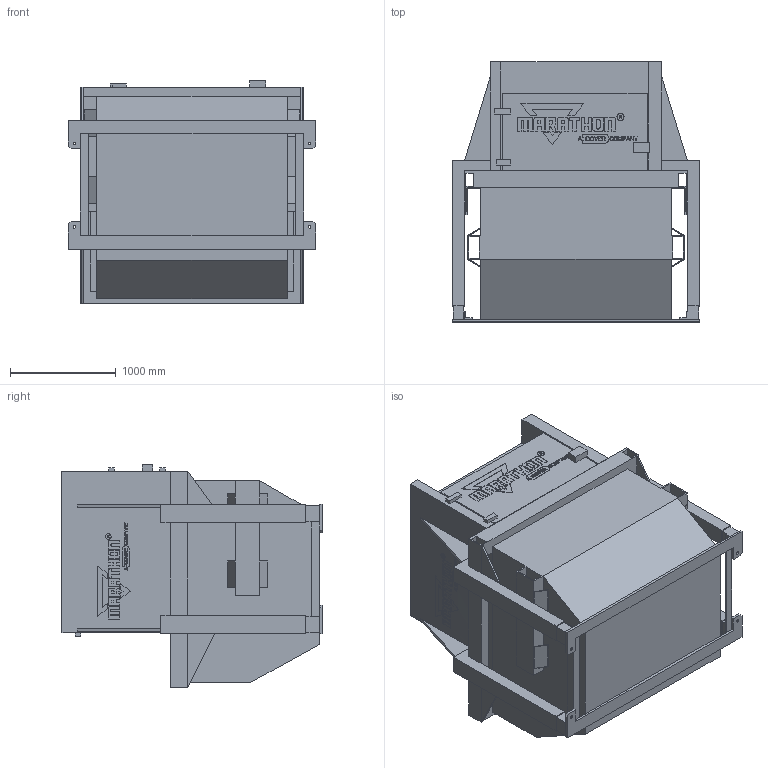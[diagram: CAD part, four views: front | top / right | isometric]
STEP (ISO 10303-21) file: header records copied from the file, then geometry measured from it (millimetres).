
FILE_DESCRIPTION((''),'2;1');
FILE_NAME('75210_ASM','2018-10-23T19:23:17',('10048000'),(''),'CREO PARAMETRIC BY PTC INC, 2017110','CREO PARAMETRIC BY PTC INC, 2017110','');
FILE_SCHEMA(('CONFIG_CONTROL_DESIGN'));
Products named in the file (3): STRUCTURE_75210; CONTAINER_75210; 75210_ASM
Assembly tree (2 placements, depth 2):
  75210_ASM
    STRUCTURE_75210
    CONTAINER_75210
Bounding box: 2339.97 x 2460.69 x 2106.61 mm (x, y, z)
Volume: 3013041323.4 mm3; surface area: 55651536.5 mm2
Topology: 2 solids, 2 shells, 2706 faces, 7486 edges, 4967 vertices
Faces by surface type: plane 2513, cylinder 193
Entity records: 84942 total; most frequent: CARTESIAN_POINT 15164, ORIENTED_EDGE 14972, DIRECTION 13294, EDGE_CURVE 7486, VECTOR 7100, LINE 7100, VERTEX_POINT 4967, AXIS2_PLACEMENT_3D 3097
